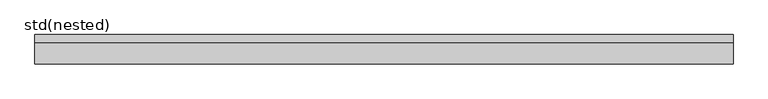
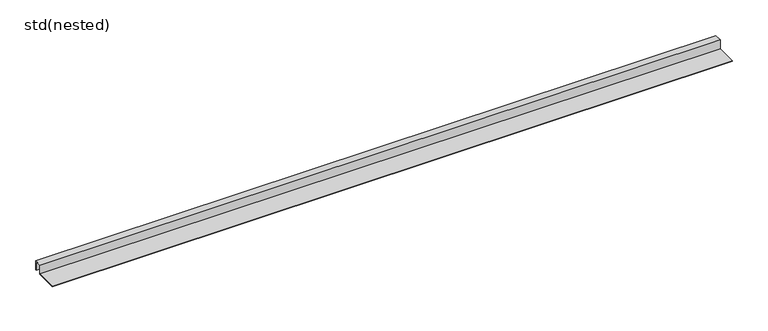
"""IFC4 building model written with IfcOpenShell, lengths in millimetres: sanitary terminal geometry, ZZZ_do not use_PF_ST_UN_ShowerStep Black_ACO : std(nested)."""

from ifc_helpers import new_model, si_unit, origin, place, context, project, spatial, faceted_brep, source, transform, mapped, element, save


def std_nested_2688633d(model_context):
    return source(origin(), model_context, "Body", "Brep", [
        faceted_brep([(0.0, -1.0, -15.0), (0.0, -1.0, -1.0), (0.0, -11.0004219, -1.0), (0.0, -11.0004219, -16.0), (0.0, -46.0004219, -16.0), (0.0, -46.0004219, -15.0), (0.0, -12.0076915, -15.0), (0.0, -12.0076915, 0.0), (0.0, 0.0, 0.0), (0.0, 0.0, -15.0), (1100.0, 0.0, -30.5033557), (1100.0, -1.0, -30.5033557), (1100.0, 0.0, 0.0), (1100.0, -12.0076915, 0.0), (1100.0, -12.0076915, -15.0), (1100.0, -46.0004219, -15.0), (1100.0, -46.0004219, -16.0), (1100.0, -11.0004219, -16.0), (1100.0, -11.0004219, -1.0), (1100.0, -1.0, -1.0)], [[[0, 1, 2, 3, 4, 5, 6, 7, 8, 9]], [[0, 9, 10, 11]], [[9, 8, 12, 10]], [[8, 7, 13, 12]], [[7, 6, 14, 13]], [[6, 5, 15, 14]], [[5, 4, 16, 15]], [[4, 3, 17, 16]], [[3, 2, 18, 17]], [[2, 1, 19, 18]], [[1, 0, 11, 19]], [[11, 10, 12, 13, 14, 15, 16, 17, 18, 19]]]),
    ])


if __name__ == "__main__":
    model = new_model("IFC4")
    model_context = context("Model", 3, world=origin())
    ifc_project = project(units=[si_unit("LENGTHUNIT", "METRE", prefix="MILLI")], contexts=[model_context])
    site = spatial("IfcSite", under=ifc_project)
    building = spatial("IfcBuilding", under=site)
    placement = place(None, origin())
    std_nested_shape = std_nested_2688633d(model_context)
    element("IfcSanitaryTerminal", 1, ObjectType="ZZZ_do not use_PF_ST_UN_ShowerStep Black_ACO : std(nested)", at=placement, inside=building, context=model_context, shape_type="MappedRepresentation", body=[
        mapped(std_nested_shape, transform((0.0, 0.0, 0.0), x_axis=(1.0, 0.0, 0.0), y_axis=(0.0, 1.0, 0.0), z_axis=(0.0, 0.0, 1.0))),
    ])
    save(model, "model.ifc")
